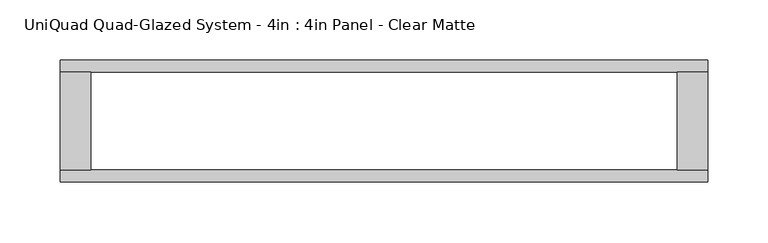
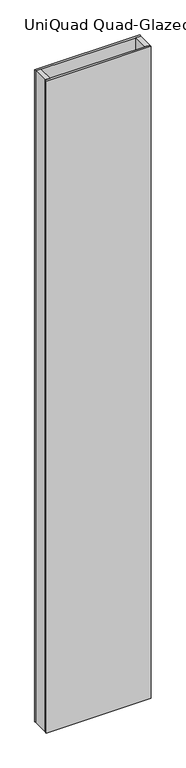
"""IFC4 building model written with IfcOpenShell, lengths in millimetres: plate geometry, UniQuad Quad-Glazed System - 4in : 4in Panel - Clear Matte."""

from ifc_helpers import new_model, si_unit, origin, origin_with_axes, place, context, project, spatial, polyline, outline, extrude, source, transform, mapped, element, save


def uniquad_quad_glazed_system_4in_4in_panel_clear_matte_58cb2d23(model_context):
    return source(origin(), model_context, "Body", "SweptSolid", [
        extrude(outline(polyline([(-269.2300781, 40.7924), (-243.8300781, 40.7924), (-243.8300781, -40.7924), (-269.2300781, -40.7924), (-269.2300781, 40.7924)])), origin_with_axes(), (0.0, 0.0, 1.0), 3530.6),
        extrude(outline(polyline([(269.2300781, 40.7924), (269.2300781, -40.7924), (243.8300781, -40.7924), (243.8300781, 40.7924), (269.2300781, 40.7924)])), origin_with_axes(), (0.0, 0.0, 1.0), 3530.6),
        extrude(outline(polyline([(269.2300781, -40.7924), (269.2300781, -50.8), (-269.2300781, -50.8), (-269.2300781, -40.7924), (269.2300781, -40.7924)])), origin_with_axes(), (0.0, 0.0, 1.0), 3530.6),
        extrude(outline(polyline([(269.2300781, 50.8), (269.2300781, 40.7924), (-269.2300781, 40.7924), (-269.2300781, 50.8), (269.2300781, 50.8)])), origin_with_axes(), (0.0, 0.0, 1.0), 3530.6),
    ])


if __name__ == "__main__":
    model = new_model("IFC4")
    model_context = context("Model", 3, world=origin())
    ifc_project = project(units=[si_unit("LENGTHUNIT", "METRE", prefix="MILLI")], contexts=[model_context])
    site = spatial("IfcSite", under=ifc_project)
    building = spatial("IfcBuilding", under=site)
    placement = place(None, origin())
    uniquad_quad_glazed_system_4in_4in_panel_clear_matte_shape = uniquad_quad_glazed_system_4in_4in_panel_clear_matte_58cb2d23(model_context)
    element("IfcPlate", 1, ObjectType="UniQuad Quad-Glazed System - 4in : 4in Panel - Clear Matte", at=placement, inside=building, context=model_context, shape_type="MappedRepresentation", body=[
        mapped(uniquad_quad_glazed_system_4in_4in_panel_clear_matte_shape, transform((0.0, 0.0, 0.0), x_axis=(1.0, 0.0, 0.0), y_axis=(0.0, 1.0, 0.0), z_axis=(0.0, 0.0, 1.0))),
    ])
    save(model, "model.ifc")
